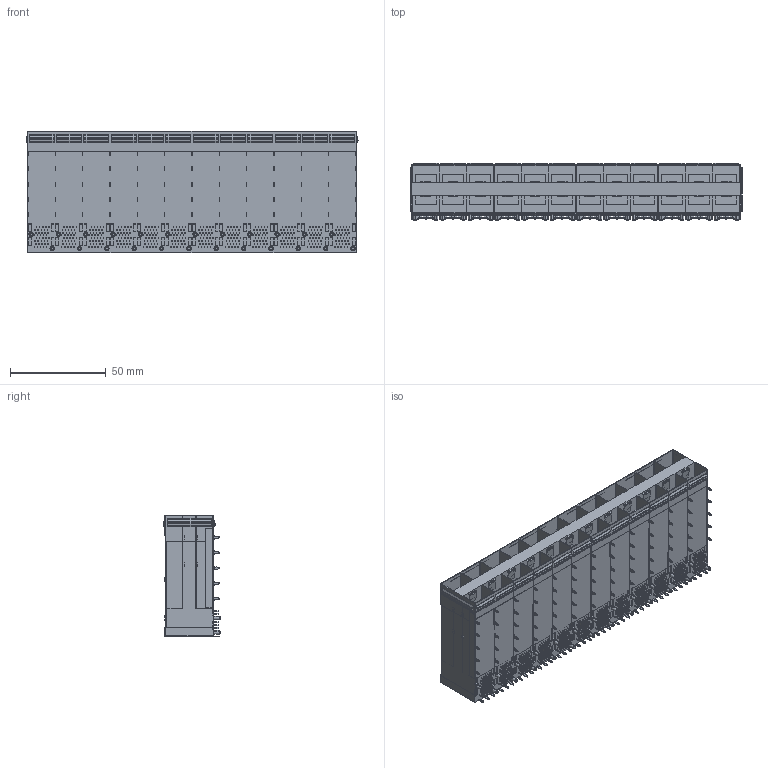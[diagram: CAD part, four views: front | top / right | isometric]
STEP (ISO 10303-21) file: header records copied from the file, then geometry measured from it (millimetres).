
FILE_DESCRIPTION (( 'STEP AP214' ), '1' );
FILE_NAME ('SFP+ 2X12 ﾎﾞﾔﾂﾑﾀ ﾎﾞｵﾆ 3D.STEP', '2025-09-02T08:42:46', ( 'ﾉ｣ﾈｲｩｿﾍ' ), ( 'Www.SangSan.Cn' ), 'SwSTEP 2.0', 'SolidWorks 2018', '' );
FILE_SCHEMA (( 'AUTOMOTIVE_DESIGN' ));
Products named in the file (1): SFP+ 2X12 拸堎挴 拸腑  3D
Bounding box: 173.06 x 29.78 x 63.25 mm (x, y, z)
Volume: 139542.3 mm3; surface area: 96350.8 mm2
Topology: 1 solids, 1 shells, 5953 faces, 16431 edges, 11138 vertices
Faces by surface type: plane 4483, cylinder 1372, cone 96, sphere 2
Entity records: 189301 total; most frequent: CARTESIAN_POINT 33521, ORIENTED_EDGE 32858, DIRECTION 31181, EDGE_CURVE 16429, VECTOR 13585, LINE 13585, VERTEX_POINT 11138, AXIS2_PLACEMENT_3D 8798
